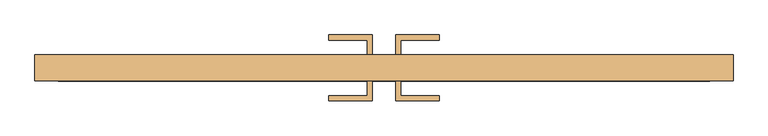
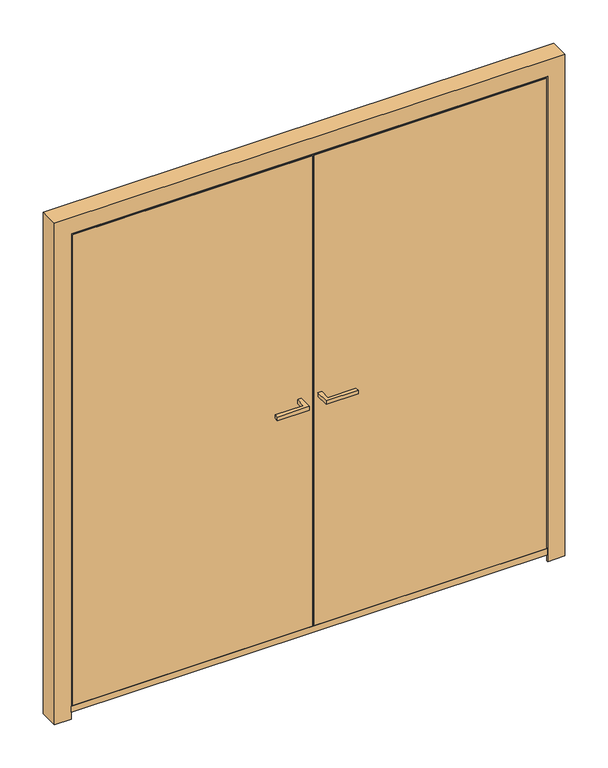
"""IFC4 building model written with IfcOpenShell, lengths in millimetres: door geometry, Reynaers_MasterLine 8_Door_Panel_Outward Opening_Double Vent_Double Sided : Reynaers_MasterLine 8_Door_Panel_Outward Opening_Double Vent_Double Sided."""

from ifc_helpers import new_model, si_unit, frame, origin, place, context, project, spatial, polyline, outline, extrude, faceted_brep, source, transform, mapped, element, save


def door_0cf6bc7c(model_context):
    return source(origin(), model_context, "Body", "SolidModel", [
        extrude(outline(polyline([(33.7, 80.0), (33.7, 137.5), (161.2, 137.5), (161.2, 122.5), (48.7, 122.5), (48.7, 80.0), (33.7, 80.0)])), frame((0.0, 0.0, 1020.0), z_axis=(0.0, 0.0, 1.0), x_axis=(1.0, 0.0, 0.0)), (0.0, 0.0, 1.0), 15.0),
        extrude(outline(polyline([(-33.7, 80.0), (-48.7, 80.0), (-48.7, 122.5), (-161.2, 122.5), (-161.2, 137.5), (-33.7, 137.5), (-33.7, 80.0)])), frame((0.0, 0.0, 1020.0), z_axis=(0.0, 0.0, 1.0), x_axis=(1.0, 0.0, 0.0)), (0.0, 0.0, 1.0), 15.0),
        extrude(outline(polyline([(-33.7, 3.0), (-33.7, -54.5), (-161.2, -54.5), (-161.2, -39.5), (-48.7, -39.5), (-48.7, 3.0), (-33.7, 3.0)])), frame((0.0, 0.0, 1020.0), z_axis=(0.0, 0.0, 1.0), x_axis=(1.0, 0.0, 0.0)), (0.0, 0.0, 1.0), 15.0),
        extrude(outline(polyline([(33.7, 3.0), (48.7, 3.0), (48.7, -39.5), (161.2, -39.5), (161.2, -54.5), (33.7, -54.5), (33.7, 3.0)])), frame((0.0, 0.0, 1020.0), z_axis=(0.0, 0.0, 1.0), x_axis=(1.0, 0.0, 0.0)), (0.0, 0.0, 1.0), 15.0),
        extrude(outline(polyline([(-951.5, 3.0), (-951.5, 6.3), (951.5, 6.3), (951.5, 3.0), (-951.5, 3.0)])), frame((0.0, 0.0, 29.5), z_axis=(0.0, 0.0, 1.0), x_axis=(1.0, 0.0, 0.0)), (0.0, 0.0, 1.0), 26.0),
        extrude(outline(polyline([(-951.5, 15.63), (-951.5, 35.63), (951.5, 35.63), (951.5, 15.63), (-951.5, 15.63)])), frame((0.0, 0.0, 20.0), z_axis=(0.0, 0.0, 1.0), x_axis=(1.0, 0.0, 0.0)), (0.0, 0.0, 1.0), 24.5),
        faceted_brep([(-67.5, 77.0, 1994.0), (-67.5, 6.0, 1994.0), (-894.0, 6.0, 1994.0), (-894.0, 77.0, 1994.0), (-16.0, 6.0, 2045.5), (-16.0, 11.8, 2045.5), (-945.5, 11.8, 2045.5), (-945.5, 6.0, 2045.5), (-894.0, 6.0, 107.0), (-894.0, 77.0, 107.0), (-945.5, 11.8, 55.5), (-945.5, 6.0, 55.5), (-67.5, 6.0, 107.0), (-67.5, 77.0, 107.0), (-16.0, 11.8, 55.5), (-16.0, 6.0, 55.5), (-956.5, 11.8, 2056.5), (-956.5, 11.8, 44.5), (-5.0, 11.8, 44.5), (-5.0, 11.8, 2056.5), (-5.0, 71.2001837, 2056.5), (-956.5, 71.2001837, 2056.5), (-16.0, 71.2001837, 2045.5), (-16.0, 77.0, 2045.5), (-945.5, 77.0, 2045.5), (-945.5, 71.2001837, 2045.5), (-956.5, 71.2001837, 44.5), (-945.5, 77.0, 55.5), (-945.5, 71.2001837, 55.5), (-5.0, 71.2001837, 44.5), (-16.0, 77.0, 55.5), (-16.0, 71.2001837, 55.5)], [[[0, 1, 2, 3]], [[4, 5, 6, 7]], [[3, 2, 8, 9]], [[7, 6, 10, 11]], [[9, 8, 12, 13]], [[11, 10, 14, 15]], [[13, 12, 1, 0]], [[7, 11, 15, 4], [1, 12, 8, 2]], [[15, 14, 5, 4]], [[16, 17, 18, 19], [5, 14, 10, 6]], [[19, 20, 21, 16]], [[22, 23, 24, 25]], [[16, 21, 26, 17]], [[25, 24, 27, 28]], [[17, 26, 29, 18]], [[28, 27, 30, 31]], [[18, 29, 20, 19]], [[20, 29, 26, 21], [25, 28, 31, 22]], [[31, 30, 23, 22]], [[23, 30, 27, 24], [3, 9, 13, 0]]]),
        faceted_brep([(-951.5, 6.7998164, 0.0), (-951.5, 3.0, 0.0), (-1020.0, 3.0, 0.0), (-1020.0, 80.0, 0.0), (-977.5, 80.0, 0.0), (-977.5, 71.2, 0.0), (-966.5, 71.2, 0.0), (-966.5, 6.7998164, 0.0), (951.5, 6.7998164, 0.0), (966.5, 6.7998164, 0.0), (966.5, 71.2, 0.0), (977.5, 71.2, 0.0), (977.5, 80.0, 0.0), (1020.0, 80.0, 0.0), (1020.0, 3.0, 0.0), (951.5, 3.0, 0.0), (-951.5, 6.7998164, 2051.5), (-951.5, 3.0, 2051.5), (951.5, 3.0, 2051.5), (1020.0, 3.0, 2120.0), (-1020.0, 3.0, 2120.0), (-1020.0, 80.0, 2120.0), (1020.0, 80.0, 2120.0), (977.5, 80.0, 2077.5), (-977.5, 80.0, 2077.5), (-977.5, 71.2, 2077.5), (977.5, 71.2, 2077.5), (966.5, 71.2, 2066.5), (-966.5, 71.2, 2066.5), (-966.5, 6.7998164, 2066.5), (966.5, 6.7998164, 2066.5), (951.5, 6.7998164, 2051.5)], [[[0, 1, 2, 3, 4, 5, 6, 7]], [[8, 9, 10, 11, 12, 13, 14, 15]], [[1, 0, 16, 17]], [[2, 1, 17, 18, 15, 14, 19, 20]], [[3, 2, 20, 21]], [[4, 3, 21, 22, 13, 12, 23, 24]], [[5, 4, 24, 25]], [[6, 5, 25, 26, 11, 10, 27, 28]], [[7, 6, 28, 29]], [[0, 7, 29, 30, 9, 8, 31, 16]], [[17, 16, 31, 18]], [[21, 20, 19, 22]], [[25, 24, 23, 26]], [[29, 28, 27, 30]], [[18, 31, 8, 15]], [[22, 19, 14, 13]], [[26, 23, 12, 11]], [[30, 27, 10, 9]]]),
        faceted_brep([(67.5, 6.0, 1994.0), (67.5, 77.0, 1994.0), (894.0, 77.0, 1994.0), (894.0, 6.0, 1994.0), (16.0, 11.8, 2045.5), (16.0, 6.0, 2045.5), (945.5, 6.0, 2045.5), (945.5, 11.8, 2045.5), (894.0, 77.0, 107.0), (894.0, 6.0, 107.0), (945.5, 6.0, 55.5), (945.5, 11.8, 55.5), (67.5, 77.0, 107.0), (67.5, 6.0, 107.0), (16.0, 6.0, 55.5), (16.0, 11.8, 55.5), (5.0, 11.8, 2056.5), (5.0, 11.8, 44.5), (956.5, 11.8, 44.5), (956.5, 11.8, 2056.5), (5.0, 71.2001837, 2056.5), (956.5, 71.2001837, 2056.5), (16.0, 77.0, 2045.5), (16.0, 71.2001837, 2045.5), (945.5, 71.2001837, 2045.5), (945.5, 77.0, 2045.5), (956.5, 71.2001837, 44.5), (945.5, 71.2001837, 55.5), (945.5, 77.0, 55.5), (5.0, 71.2001837, 44.5), (16.0, 71.2001837, 55.5), (16.0, 77.0, 55.5)], [[[0, 1, 2, 3]], [[4, 5, 6, 7]], [[3, 2, 8, 9]], [[7, 6, 10, 11]], [[9, 8, 12, 13]], [[11, 10, 14, 15]], [[13, 12, 1, 0]], [[5, 14, 10, 6], [3, 9, 13, 0]], [[15, 14, 5, 4]], [[16, 17, 18, 19], [7, 11, 15, 4]], [[20, 16, 19, 21]], [[22, 23, 24, 25]], [[21, 19, 18, 26]], [[25, 24, 27, 28]], [[26, 18, 17, 29]], [[28, 27, 30, 31]], [[29, 17, 16, 20]], [[21, 26, 29, 20], [23, 30, 27, 24]], [[31, 30, 23, 22]], [[25, 28, 31, 22], [1, 12, 8, 2]]]),
        extrude(outline(polyline([(72.5, 6.0), (72.5, 77.0), (889.0, 77.0), (889.0, 6.0), (72.5, 6.0)])), frame((0.0, 0.0, 112.0), z_axis=(0.0, 0.0, 1.0), x_axis=(1.0, 0.0, 0.0)), (0.0, 0.0, 1.0), 1877.0),
        extrude(outline(polyline([(-10.0, 80.0), (971.5, 80.0), (971.5, 77.0), (-10.0, 77.0), (-10.0, 80.0)])), frame((0.0, 0.0, 29.5), z_axis=(0.0, 0.0, 1.0), x_axis=(1.0, 0.0, 0.0)), (0.0, 0.0, 1.0), 2042.0),
        extrude(outline(polyline([(16.0, 6.0), (945.5, 6.0), (945.5, 3.0), (16.0, 3.0), (16.0, 6.0)])), frame((0.0, 0.0, 55.5), z_axis=(0.0, 0.0, 1.0), x_axis=(1.0, 0.0, 0.0)), (0.0, 0.0, 1.0), 1990.0),
        extrude(outline(polyline([(-16.0, 80.0), (-16.0, 77.0), (-971.5, 77.0), (-971.5, 80.0), (-16.0, 80.0)])), frame((0.0, 0.0, 29.5), z_axis=(0.0, 0.0, 1.0), x_axis=(1.0, 0.0, 0.0)), (0.0, 0.0, 1.0), 2042.0),
        extrude(outline(polyline([(10.0, 6.0), (10.0, 3.0), (-945.5, 3.0), (-945.5, 6.0), (10.0, 6.0)])), frame((0.0, 0.0, 55.5), z_axis=(0.0, 0.0, 1.0), x_axis=(1.0, 0.0, 0.0)), (0.0, 0.0, 1.0), 1990.0),
        extrude(outline(polyline([(-72.5, 6.0), (-889.0, 6.0), (-889.0, 77.0), (-72.5, 77.0), (-72.5, 6.0)])), frame((0.0, 0.0, 112.0), z_axis=(0.0, 0.0, 1.0), x_axis=(1.0, 0.0, 0.0)), (0.0, 0.0, 1.0), 1877.0),
    ])


if __name__ == "__main__":
    model = new_model("IFC4")
    model_context = context("Model", 3, world=origin())
    ifc_project = project(units=[si_unit("LENGTHUNIT", "METRE", prefix="MILLI")], contexts=[model_context])
    site = spatial("IfcSite", under=ifc_project)
    building = spatial("IfcBuilding", under=site)
    placement = place(None, origin())
    door_shape = door_0cf6bc7c(model_context)
    element("IfcDoor", 1, ObjectType="Reynaers_MasterLine 8_Door_Panel_Outward Opening_Double Vent_Double Sided : Reynaers_MasterLine 8_Door_Panel_Outward Opening_Double Vent_Double Sided", at=placement, inside=building, context=model_context, shape_type="MappedRepresentation", body=[
        mapped(door_shape, transform((0.0, 0.0, 0.0), x_axis=(1.0, 0.0, 0.0), y_axis=(0.0, 1.0, 0.0), z_axis=(0.0, 0.0, 1.0))),
    ])
    save(model, "model.ifc")
